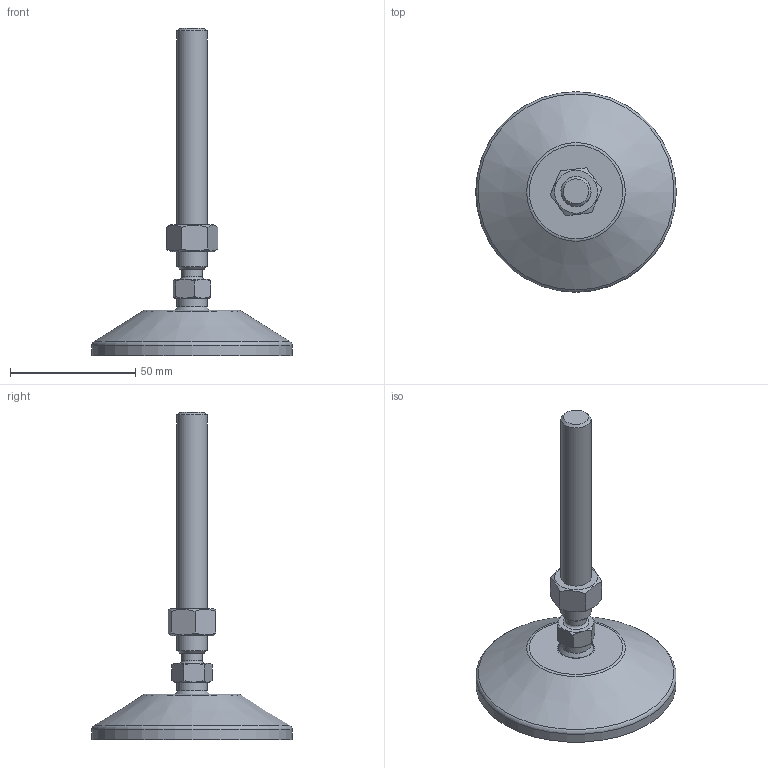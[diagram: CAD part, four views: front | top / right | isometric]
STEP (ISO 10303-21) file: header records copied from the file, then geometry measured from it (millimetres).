
FILE_DESCRIPTION(('STEP AP203'), '1');
FILE_NAME('栖闉罻', '', ('UNSPECIFIED'), ('UNSPECIFIED'), 'C3D Converter', 'C3D Toolkit', '');
FILE_SCHEMA(('CONFIG_CONTROL_DESIGN'));
Length unit declared in the file: millimetre
Products named in the file (4): A00020.112100; A00015.1080
Assembly tree (3 placements, depth 3):
  (unnamed)
    A00020.112100
      (unnamed)
    A00015.1080
Bounding box: 80 x 80 x 130.4 mm (x, y, z)
Volume: 52061 mm3; surface area: 22919.4 mm2
Topology: 3 solids, 3 shells, 191 faces, 476 edges, 313 vertices
Faces by surface type: plane 96, cylinder 58, cone 21, torus 14, sphere 2
Full cylindrical faces by diameter (mm): 4 x8, 8.3 x1, 10.647 x1, 12 x2, 14.3 x1, 15 x2, 15.5 x1, 69.3 x1, 80 x1
Entity records: 9541 total; most frequent: CARTESIAN_POINT 3351, DIRECTION 942, ORIENTED_EDGE 880, EDGE_CURVE 440, AXIS2_PLACEMENT_3D 377, VERTEX_POINT 312, EDGE_LOOP 250, FACE_BOUND 207
